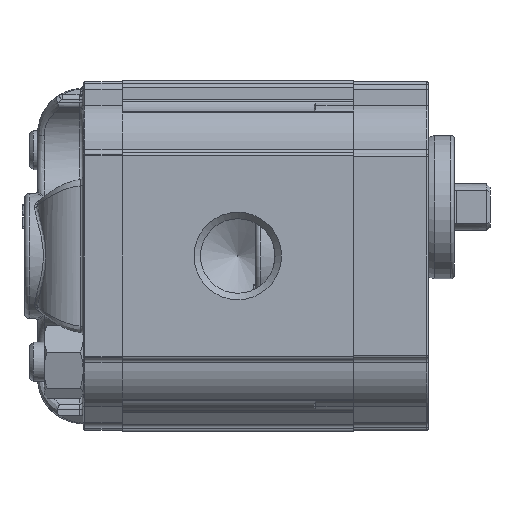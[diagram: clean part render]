
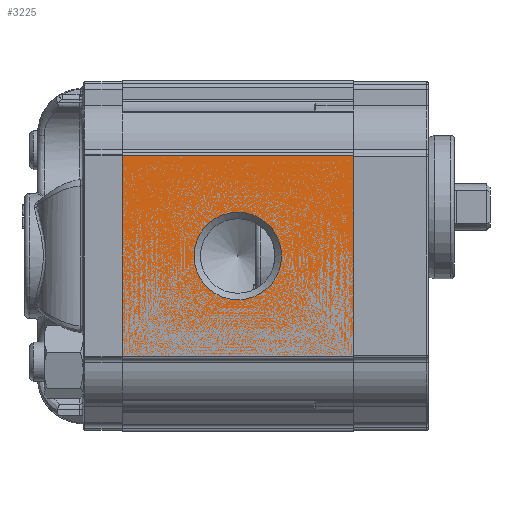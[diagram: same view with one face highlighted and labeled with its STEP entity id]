
A CAD part, left-side view. The second image highlights one B-rep face of the part: STEP entity #3225.
In plain terms, the highlighted planar face has unit normal (-1, 0, 0) as drawn and (1, 0, 0) by its records, which use the part's own axes.
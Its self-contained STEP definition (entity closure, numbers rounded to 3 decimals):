
#3225 = ADVANCED_FACE( '', ( #7130, #7131 ), #7132, .T. );
#7130 = FACE_BOUND( '', #13142, .T. );
#7131 = FACE_OUTER_BOUND( '', #13143, .T. );
#7132 = PLANE( '', #13144 );
#13142 = EDGE_LOOP( '', ( #24063 ) );
#13143 = EDGE_LOOP( '', ( #24064, #24065, #24066, #24067 ) );
#13144 = AXIS2_PLACEMENT_3D( '', #24068, #24069, #24070 );
#24063 = ORIENTED_EDGE( '', *, *, #31319, .T. );
#24064 = ORIENTED_EDGE( '', *, *, #31024, .F. );
#24065 = ORIENTED_EDGE( '', *, *, #29234, .F. );
#24066 = ORIENTED_EDGE( '', *, *, #32977, .T. );
#24067 = ORIENTED_EDGE( '', *, *, #32978, .T. );
#24068 = CARTESIAN_POINT( '', ( 25., 35.5, -15.418 ) );
#24069 = DIRECTION( '', ( 1., 0., 0. ) );
#24070 = DIRECTION( '', ( 0., 0., -1. ) );
#29234 = EDGE_CURVE( '', #34701, #34697, #34703, .T. );
#31024 = EDGE_CURVE( '', #34697, #37678, #37679, .T. );
#31319 = EDGE_CURVE( '', #38119, #38119, #38120, .F. );
#32977 = EDGE_CURVE( '', #34701, #40326, #40327, .T. );
#32978 = EDGE_CURVE( '', #40326, #37678, #40328, .T. );
#34697 = VERTEX_POINT( '', #42673 );
#34701 = VERTEX_POINT( '', #42678 );
#34703 = LINE( '', #42680, #42681 );
#37678 = VERTEX_POINT( '', #48402 );
#37679 = LINE( '', #48403, #48404 );
#38119 = VERTEX_POINT( '', #49330 );
#38120 = CIRCLE( '', #49331, 6.723 );
#40326 = VERTEX_POINT( '', #53840 );
#40327 = LINE( '', #53841, #53842 );
#40328 = LINE( '', #53843, #53844 );
#42673 = CARTESIAN_POINT( '', ( 25., 0., -15.418 ) );
#42678 = CARTESIAN_POINT( '', ( 25., 35.5, -15.418 ) );
#42680 = CARTESIAN_POINT( '', ( 25., 35.5, -15.418 ) );
#42681 = VECTOR( '', #56176, 1000. );
#48402 = CARTESIAN_POINT( '', ( 25., 0., 15.418 ) );
#48403 = CARTESIAN_POINT( '', ( 25., 0., -15.418 ) );
#48404 = VECTOR( '', #58491, 1000. );
#49330 = CARTESIAN_POINT( '', ( 25., 17.75, -6.722 ) );
#49331 = AXIS2_PLACEMENT_3D( '', #58809, #58810, #58811 );
#53840 = CARTESIAN_POINT( '', ( 25., 35.5, 15.418 ) );
#53841 = CARTESIAN_POINT( '', ( 25., 35.5, -15.418 ) );
#53842 = VECTOR( '', #60490, 1000. );
#53843 = CARTESIAN_POINT( '', ( 25., 35.5, 15.418 ) );
#53844 = VECTOR( '', #60491, 1000. );
#56176 = DIRECTION( '', ( 0., -1., 0. ) );
#58491 = DIRECTION( '', ( 0., 0., 1. ) );
#58809 = CARTESIAN_POINT( '', ( 25., 17.75, 0. ) );
#58810 = DIRECTION( '', ( 1., 0., 0. ) );
#58811 = DIRECTION( '', ( 0., 0., -1. ) );
#60490 = DIRECTION( '', ( 0., 0., 1. ) );
#60491 = DIRECTION( '', ( 0., -1., 0. ) );
